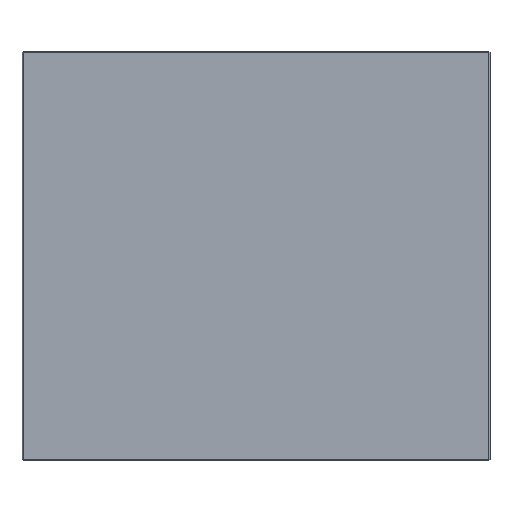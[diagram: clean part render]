
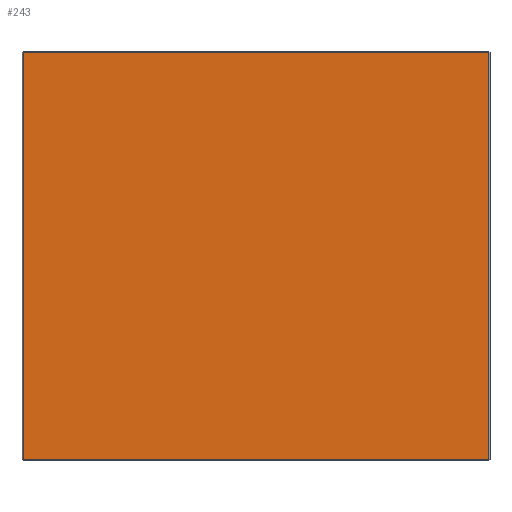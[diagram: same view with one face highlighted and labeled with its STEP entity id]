
A CAD part, front view. The second image highlights one B-rep face of the part: STEP entity #243.
In plain terms, the highlighted planar face has unit normal (0, -1, 0).
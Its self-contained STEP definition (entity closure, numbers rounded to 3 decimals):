
#17 = LINE ( 'NONE', #329, #270 ) ;
#44 = CARTESIAN_POINT ( 'NONE',  ( -197., 0., -172. ) ) ;
#78 = DIRECTION ( 'NONE',  ( 0., 1., 0. ) ) ;
#103 = EDGE_CURVE ( 'NONE', #160, #411, #17, .T. ) ;
#146 = CARTESIAN_POINT ( 'NONE',  ( -197., 0., 172. ) ) ;
#152 = EDGE_CURVE ( 'NONE', #353, #541, #510, .T. ) ;
#160 = VERTEX_POINT ( 'NONE', #445 ) ;
#196 = DIRECTION ( 'NONE',  ( 0., 0., 1. ) ) ;
#205 = EDGE_CURVE ( 'NONE', #411, #353, #451, .T. ) ;
#215 = ORIENTED_EDGE ( 'NONE', *, *, #205, .T. ) ;
#226 = LINE ( 'NONE', #339, #363 ) ;
#229 = VECTOR ( 'NONE', #397, 1000. ) ;
#243 = ADVANCED_FACE ( 'NONE', ( #485 ), #624, .F. ) ;
#270 = VECTOR ( 'NONE', #358, 1000. ) ;
#282 = DIRECTION ( 'NONE',  ( 1., 0., 0. ) ) ;
#285 = AXIS2_PLACEMENT_3D ( 'NONE', #632, #78, #196 ) ;
#303 = ORIENTED_EDGE ( 'NONE', *, *, #103, .T. ) ;
#329 = CARTESIAN_POINT ( 'NONE',  ( 197., 0., 0. ) ) ;
#339 = CARTESIAN_POINT ( 'NONE',  ( 0., 0., -172. ) ) ;
#353 = VERTEX_POINT ( 'NONE', #146 ) ;
#358 = DIRECTION ( 'NONE',  ( 0., 0., 1. ) ) ;
#363 = VECTOR ( 'NONE', #282, 1000. ) ;
#374 = CARTESIAN_POINT ( 'NONE',  ( -197., 0., 0. ) ) ;
#397 = DIRECTION ( 'NONE',  ( 0., 0., -1. ) ) ;
#398 = EDGE_LOOP ( 'NONE', ( #303, #215, #449, #518 ) ) ;
#411 = VERTEX_POINT ( 'NONE', #536 ) ;
#437 = VECTOR ( 'NONE', #573, 1000. ) ;
#445 = CARTESIAN_POINT ( 'NONE',  ( 197., 0., -172. ) ) ;
#449 = ORIENTED_EDGE ( 'NONE', *, *, #152, .T. ) ;
#451 = LINE ( 'NONE', #595, #437 ) ;
#485 = FACE_OUTER_BOUND ( 'NONE', #398, .T. ) ;
#510 = LINE ( 'NONE', #374, #229 ) ;
#518 = ORIENTED_EDGE ( 'NONE', *, *, #637, .T. ) ;
#536 = CARTESIAN_POINT ( 'NONE',  ( 197., 0., 172. ) ) ;
#541 = VERTEX_POINT ( 'NONE', #44 ) ;
#573 = DIRECTION ( 'NONE',  ( -1., 0., 0. ) ) ;
#595 = CARTESIAN_POINT ( 'NONE',  ( 0., 0., 172. ) ) ;
#624 = PLANE ( 'NONE',  #285 ) ;
#632 = CARTESIAN_POINT ( 'NONE',  ( 0., 0., 0. ) ) ;
#637 = EDGE_CURVE ( 'NONE', #541, #160, #226, .T. ) ;
